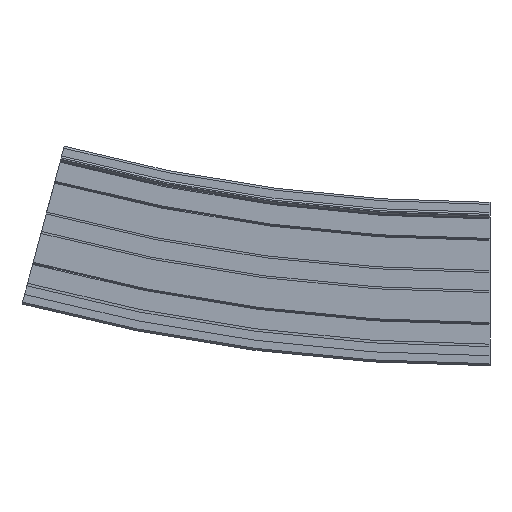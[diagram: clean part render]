
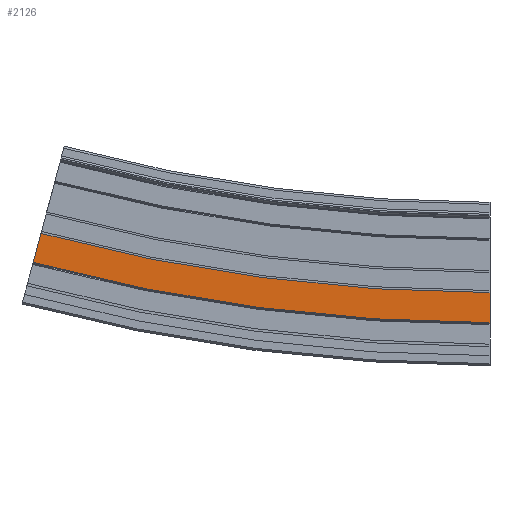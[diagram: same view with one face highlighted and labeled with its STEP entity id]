
A CAD part, left-side view. The second image highlights one B-rep face of the part: STEP entity #2126.
In plain terms, the highlighted planar face has unit normal (-1, 0, 0).
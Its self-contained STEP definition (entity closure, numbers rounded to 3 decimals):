
#214=CIRCLE('',#2314,865.5);
#215=CIRCLE('',#2316,880.5);
#325=FACE_OUTER_BOUND('',#443,.T.);
#443=EDGE_LOOP('',(#1725,#1726,#1727,#1728));
#593=LINE('',#8156,#771);
#594=LINE('',#8158,#772);
#771=VECTOR('',#2772,10.);
#772=VECTOR('',#2773,10.);
#983=VERTEX_POINT('',#8149);
#984=VERTEX_POINT('',#8151);
#985=VERTEX_POINT('',#8155);
#986=VERTEX_POINT('',#8157);
#1271=EDGE_CURVE('',#983,#984,#214,.T.);
#1272=EDGE_CURVE('',#985,#983,#593,.T.);
#1273=EDGE_CURVE('',#986,#984,#594,.T.);
#1274=EDGE_CURVE('',#985,#986,#215,.T.);
#1725=ORIENTED_EDGE('',*,*,#1272,.T.);
#1726=ORIENTED_EDGE('',*,*,#1271,.T.);
#1727=ORIENTED_EDGE('',*,*,#1273,.F.);
#1728=ORIENTED_EDGE('',*,*,#1274,.F.);
#2030=PLANE('',#2315);
#2126=ADVANCED_FACE('',(#325),#2030,.T.);
#2314=AXIS2_PLACEMENT_3D('',#8153,#2768,#2769);
#2315=AXIS2_PLACEMENT_3D('',#8154,#2770,#2771);
#2316=AXIS2_PLACEMENT_3D('',#8159,#2774,#2775);
#2768=DIRECTION('center_axis',(1.,0.,0.));
#2769=DIRECTION('ref_axis',(0.,0.,
-1.));
#2770=DIRECTION('center_axis',(-1.,0.,0.));
#2771=DIRECTION('ref_axis',(0.,0.,1.));
#2772=DIRECTION('',(0.,0.,1.));
#2773=DIRECTION('',(0.,-0.259,0.966));
#2774=DIRECTION('center_axis',(1.,0.,0.));
#2775=DIRECTION('ref_axis',(0.,0.,
-1.));
#8149=CARTESIAN_POINT('',(-112.,0.,-5.5));
#8151=CARTESIAN_POINT('',(-112.,224.008,23.991));
#8153=CARTESIAN_POINT('Origin',(-112.,0.,
860.));
#8154=CARTESIAN_POINT('Origin',(-112.,0.,-20.5));
#8155=CARTESIAN_POINT('',(-112.,0.,-20.5));
#8156=CARTESIAN_POINT('',(-112.,0.,-20.5));
#8157=CARTESIAN_POINT('',(-112.,227.89,9.503));
#8158=CARTESIAN_POINT('',(-112.,227.89,9.503));
#8159=CARTESIAN_POINT('Origin',(-112.,0.,
860.));
